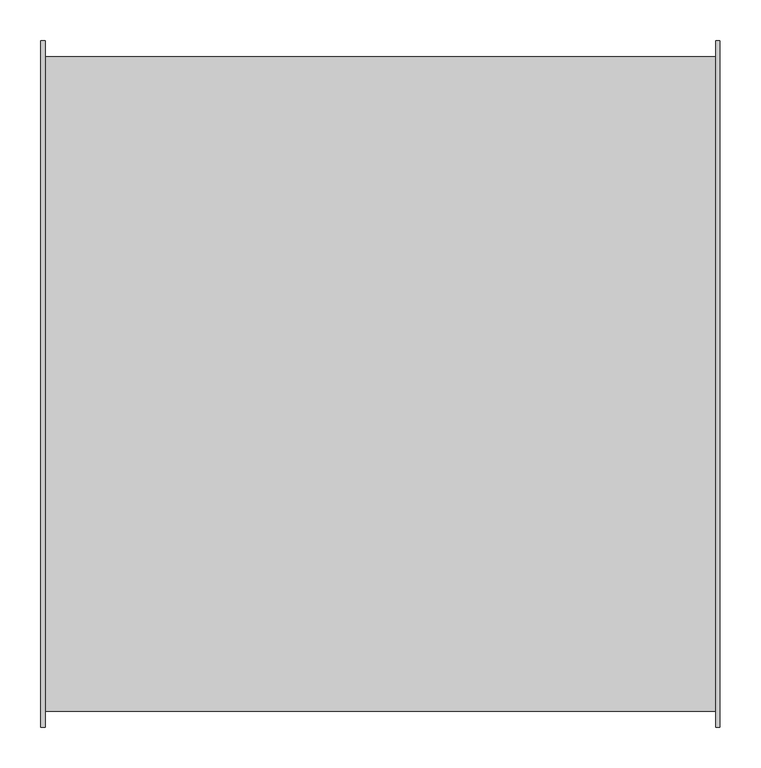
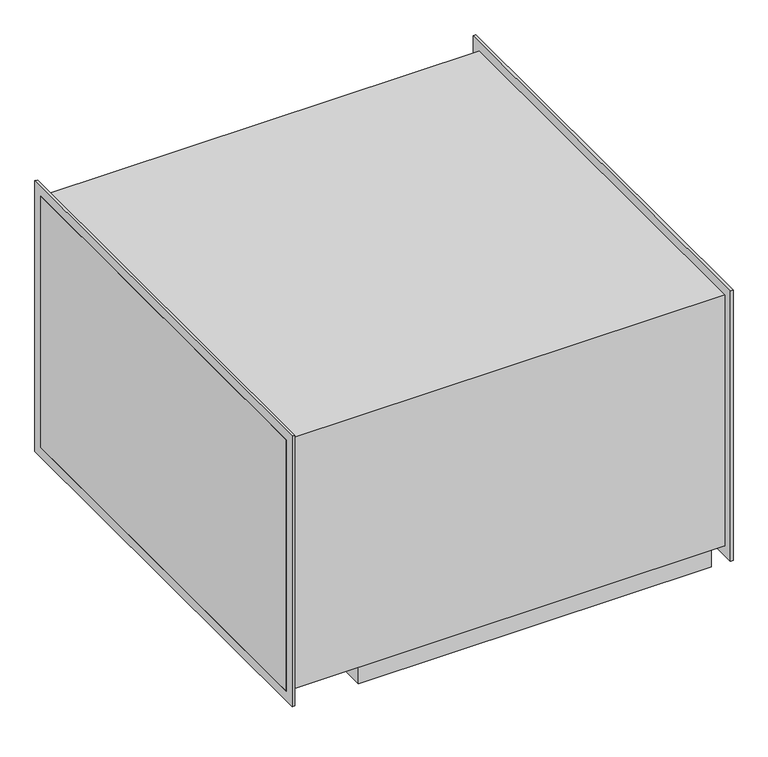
"""IFC4 building model written with IfcOpenShell, lengths in millimetres: unitary equipment geometry, VE-Wentylator-ParaForma-Harmann-DRB_EC-Nawiewny : 080/50/9500TEC."""

from ifc_helpers import new_model, si_unit, point, frame, frame_2d, origin, place, context, project, spatial, polyline, circle_curve, trimmed, segment, composite_curve, outline, extrude, faceted_brep, source, transform, mapped, element, save
from ifc_brep_helpers import plane_surface, revolved_surface, advanced_brep


def unitary_equipment_f620d910(model_context):
    return source(origin(), model_context, "Body", "SolidModel", [
        faceted_brep([(-277.4, -397.0, -285.4), (-277.4, -397.0, -250.0), (-277.4, 397.0, -250.0), (-277.4, 397.0, -285.4), (386.6, -397.0, -285.4), (386.6, 397.0, -285.4), (386.6, 397.0, -250.0), (386.6, -397.0, -250.0), (-272.4, 392.0, -285.4), (-272.4, -392.0, -285.4), (381.6, -392.0, -285.4), (381.6, 392.0, -285.4), (-272.4, 392.0, -250.0), (-272.4, -392.0, -250.0), (381.6, -392.0, -250.0), (381.6, 392.0, -250.0), (-415.0, -400.0, 250.0), (-415.0, -400.0, -250.0), (415.0, -400.0, -250.0), (415.0, -400.0, 250.0), (-415.0, 400.0, 250.0), (415.0, 400.0, 250.0), (-415.0, 400.0, -250.0), (415.0, 400.0, -250.0)], [[[0, 1, 2, 3]], [[4, 5, 6, 7]], [[1, 0, 4, 7]], [[3, 2, 6, 5]], [[0, 3, 5, 4], [8, 9, 10, 11]], [[8, 12, 13, 9]], [[10, 14, 15, 11]], [[9, 13, 14, 10]], [[12, 8, 11, 15]], [[16, 17, 18, 19]], [[20, 16, 19, 21]], [[22, 20, 21, 23]], [[13, 12, 15, 14]], [[18, 17, 22, 23], [2, 1, 7, 6]], [[17, 16, 20, 22]], [[18, 23, 21, 19]]]),
        extrude(outline(polyline([(-419.2, -269.2), (-419.2, 269.2), (419.2, 269.2), (419.2, -269.2), (-419.2, -269.2)]), holes=[polyline([(-400.0, -250.0), (400.0, -250.0), (400.0, 250.0), (-400.0, 250.0), (-400.0, -250.0)])]), frame((410.0, 0.0, 0.0), z_axis=(1.0, 0.0, 0.0), x_axis=(0.0, 1.0, 0.0)), (0.0, 0.0, 1.0), 5.0),
        extrude(outline(polyline([(-419.2, -269.2), (-419.2, 269.2), (419.2, 269.2), (419.2, -269.2), (-419.2, -269.2)]), holes=[polyline([(-400.0, -250.0), (400.0, -250.0), (400.0, 250.0), (-400.0, 250.0), (-400.0, -250.0)])]), frame((-415.0, 0.0, 0.0), z_axis=(1.0, 0.0, 0.0), x_axis=(0.0, 1.0, 0.0)), (0.0, 0.0, 1.0), 5.0),
        extrude(outline(composite_curve([segment(polyline([(77.5, 277.3), (-22.5, 277.3)]), True, "CONTINUOUS"), segment(trimmed(circle_curve(frame_2d((-22.5, 282.3)), 5.0), [point((-22.5, 277.3))], [point((-27.5, 282.3))], False, "CARTESIAN"), True, "CONTINUOUS"), segment(polyline([(-27.5, 282.3), (-27.5, 367.3)]), True, "CONTINUOUS"), segment(trimmed(circle_curve(frame_2d((-22.5, 367.3)), 5.0), [point((-27.5, 367.3))], [point((-22.5, 372.3))], False, "CARTESIAN"), True, "CONTINUOUS"), segment(polyline([(-22.5, 372.3), (77.5, 372.3)]), True, "CONTINUOUS"), segment(trimmed(circle_curve(frame_2d((77.5, 367.3)), 5.0), [point((77.5, 372.3))], [point((82.5, 367.3))], False, "CARTESIAN"), True, "CONTINUOUS"), segment(polyline([(82.5, 367.3), (82.5, 282.3)]), True, "CONTINUOUS"), segment(trimmed(circle_curve(frame_2d((77.5, 282.3)), 5.0), [point((82.5, 282.3))], [point((77.5, 277.3))], False, "CARTESIAN"), True, "CONTINUOUS")], self_intersect=False)), frame((0.0, 0.0, -299.5), z_axis=(0.0, 0.0, 1.0), x_axis=(1.0, 0.0, 0.0)), (0.0, 0.0, 1.0), 49.5),
        advanced_brep(
        [(27.5, -136.15, -265.0), (27.5, 33.35, -265.0), (27.5, -156.15, -250.0), (27.5, 53.35, -250.0)],
        [
            (0, 1, circle_curve(frame((27.5, -51.4, -265.0), z_axis=(0.0, 0.0, -1.0), x_axis=(0.0, -1.0, 0.0)), 84.75)),
            (1, 0, circle_curve(frame((27.5, -51.4, -265.0), z_axis=(0.0, 0.0, -1.0), x_axis=(0.0, 1.0, 0.0)), 84.75)),
            (2, 3, circle_curve(frame((27.5, -51.4, -250.0), z_axis=(0.0, 0.0, 1.0), x_axis=(0.0, 1.0, 0.0)), 104.75)),
            (3, 2, circle_curve(frame((27.5, -51.4, -250.0), z_axis=(0.0, 0.0, 1.0), x_axis=(0.0, -1.0, 0.0)), 104.75)),
            (3, 1),
            (0, 2),
        ],
        [
            plane_surface(frame((27.5, -51.4, -265.0), z_axis=(0.0, 0.0, -1.0), x_axis=(-1.0, 0.0, 0.0))),
            plane_surface(frame((27.5, -51.4, -250.0), z_axis=(0.0, 0.0, 1.0), x_axis=(-1.0, 0.0, 0.0))),
            revolved_surface(polyline([(27.5, -136.15, -265.0), (27.5, -156.15, -250.0)]), (27.5, -51.4, -328.5625), (0.0, 0.0, 1.0)),
            revolved_surface(polyline([(27.5, 33.35, -265.0), (27.5, 53.35, -250.0)]), (27.5, -51.4, -328.5625), (0.0, 0.0, 1.0)),
        ],
        [
            (0, [[1, 2]]),
            (1, [[3, 4]]),
            (2, [[-4, 5, -1, 6]]),
            (3, [[-3, -6, -2, -5]]),
        ],
    ),
    ])


if __name__ == "__main__":
    model = new_model("IFC4")
    model_context = context("Model", 3, world=origin())
    ifc_project = project(units=[si_unit("LENGTHUNIT", "METRE", prefix="MILLI")], contexts=[model_context])
    site = spatial("IfcSite", under=ifc_project)
    building = spatial("IfcBuilding", under=site)
    placement = place(None, origin())
    unitary_equipment_shape = unitary_equipment_f620d910(model_context)
    element("IfcUnitaryEquipment", 1, ObjectType="VE-Wentylator-ParaForma-Harmann-DRB_EC-Nawiewny : 080/50/9500TEC", at=placement, inside=building, context=model_context, shape_type="MappedRepresentation", body=[
        mapped(unitary_equipment_shape, transform((0.0, 0.0, 0.0), x_axis=(1.0, 0.0, 0.0), y_axis=(0.0, 1.0, 0.0), z_axis=(0.0, 0.0, 1.0))),
    ])
    save(model, "model.ifc")
